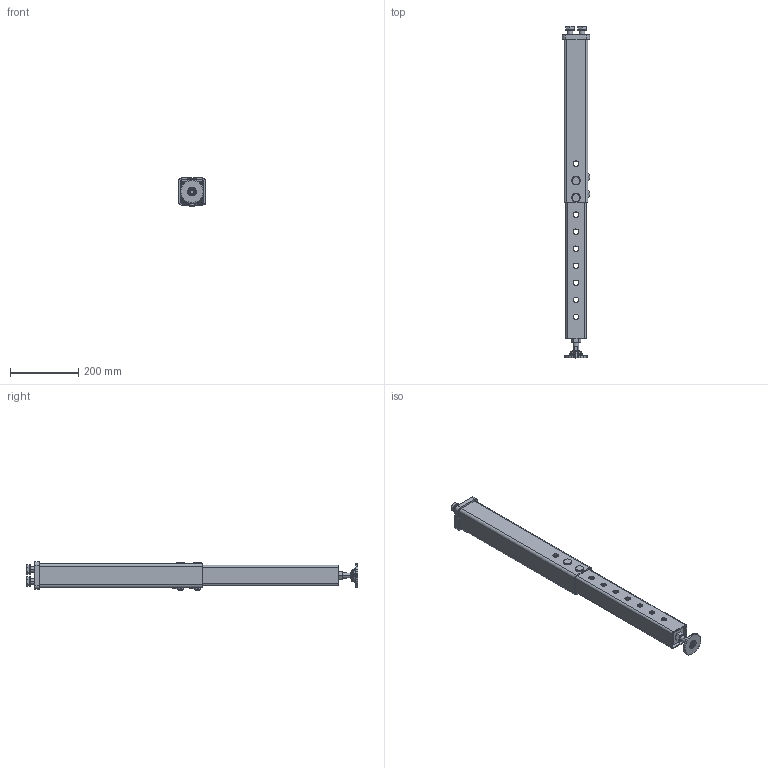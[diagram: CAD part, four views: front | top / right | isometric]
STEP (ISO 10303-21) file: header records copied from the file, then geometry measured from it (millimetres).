
FILE_DESCRIPTION (( 'STEP AP203' ), '1' );
FILE_NAME ('160877.STEP', '2020-07-10T08:14:29', ( '' ), ( '' ), 'SwSTEP 2.0', 'SolidWorks 2019', '' );
FILE_SCHEMA (( 'CONFIG_CONTROL_DESIGN' ));
Length unit declared in the file: millimetre
Products named in the file (16): Federring DIN 127 B - 16 - verzinkt; Federstecker; Aufnahme unten^160877.X Fuß höhenverstellbar 550-950 Schweißteil unten;  Rohr unten^160877.X Fuß höhenverstellbar 550-950 Schweißteil unten_Standard<Wie bearbeitet>; M16x1,5 Spindel 100^160855.X.1 Verstelleinheit_ohne gew; ISO 4017 - M16 x 50 - verzinkt_0; ISO 4032 - M12 - verzinkt_0; Teller 70^160855.X.1 Verstelleinheit;  160877.X_Rohr oben^160877.X Fuß höhenverstellbar 550-950Schweißteil oben_Standard<Wie bearbeitet>; 160877.X Fuß höhenverstellbar 550-950Schweißteil oben; 160855.X.1 Verstelleinheit_1; 16_Bolzen für Höhenverst. ExtremeFuß; Aufnahme oben^160877.X Fuß höhenverstellbar 550-950Schweißteil oben; 160877; ISO 8673 M16x1,5 - verzinkt_0; 160877.X Fuß höhenverstellbar 550-950 Schweißteil unten
Assembly tree (19 placements, depth 3):
  160877
    160877.X Fuß höhenverstellbar 550-950Schweißteil oben
       160877.X_Rohr oben^160877.X Fuß höhenverstellbar 550-950Schweißteil oben_Standard<Wie bearbeitet>
      Aufnahme oben^160877.X Fuß höhenverstellbar 550-950Schweißteil oben
    160877.X Fuß höhenverstellbar 550-950 Schweißteil unten
       Rohr unten^160877.X Fuß höhenverstellbar 550-950 Schweißteil unten_Standard<Wie bearbeitet>
      Aufnahme unten^160877.X Fuß höhenverstellbar 550-950 Schweißteil unten
    160855.X.1 Verstelleinheit_1
      Teller 70^160855.X.1 Verstelleinheit
      M16x1,5 Spindel 100^160855.X.1 Verstelleinheit_ohne gew
      ISO 4032 - M12 - verzinkt_0
    16_Bolzen für Höhenverst. ExtremeFuß  x2
    Federstecker  x2
    Federring DIN 127 B - 16 - verzinkt  x2
    ISO 4017 - M16 x 50 - verzinkt_0  x2
    ISO 8673 M16x1,5 - verzinkt_0
Bounding box: 80 x 975.5 x 82.5 mm (x, y, z)
Volume: 1042475.2 mm3; surface area: 522921.2 mm2
Topology: 16 solids, 16 shells, 372 faces, 870 edges, 534 vertices
Faces by surface type: cylinder 142, plane 112, cone 68, torus 50
Entity records: 10954 total; most frequent: CARTESIAN_POINT 1949, DIRECTION 1638, ORIENTED_EDGE 1416, EDGE_CURVE 708, AXIS2_PLACEMENT_3D 677, VERTEX_POINT 440, EDGE_LOOP 368, CIRCLE 356
